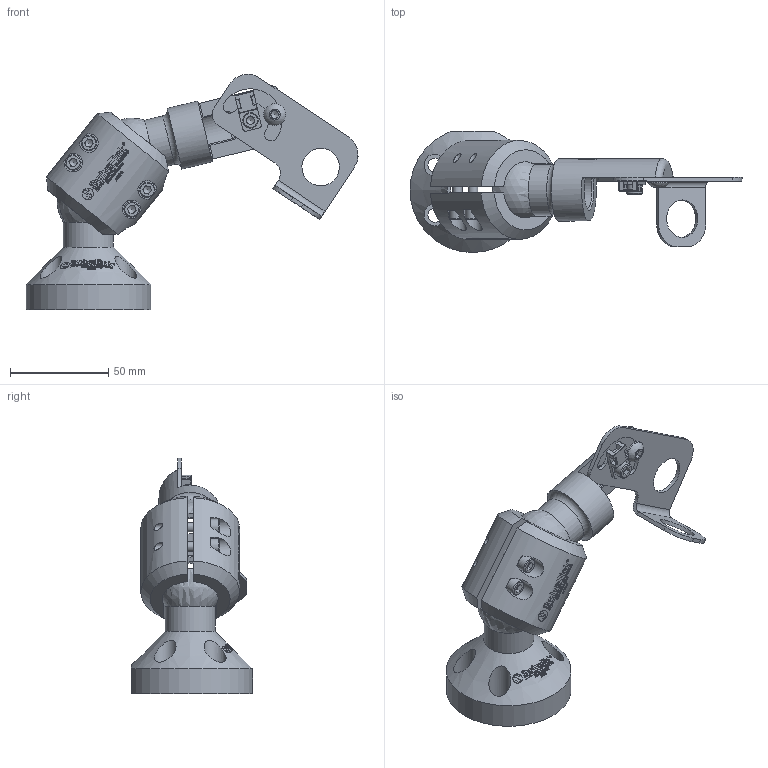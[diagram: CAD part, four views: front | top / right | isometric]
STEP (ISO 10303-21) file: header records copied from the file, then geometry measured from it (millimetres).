
FILE_DESCRIPTION (( 'STEP AP203' ), '1' );
FILE_NAME ('AFSB-1000-SBKIT-18.STEP', '2020-06-02T13:48:31', ( '' ), ( '' ), 'SwSTEP 2.0', 'SolidWorks 2020', '' );
FILE_SCHEMA (( 'CONFIG_CONTROL_DESIGN' ));
Length unit declared in the file: inch
Products named in the file (10): AFSB-1000-SBKIT-18; SHCS-23146-BO_SHCS-23146-BO; BHCS-24048-BO_BHCS-24048-BO; AFSB-2_Swivellink Etching; AFSB-SBH; SHCS-23144-BO_SHCS-23144-BO; AFSB-SB-18; AFSB-2; AFSB-1_Swivellink Etching; 07281137
Assembly tree (12 placements, depth 3):
  AFSB-1000-SBKIT-18
    AFSB-1_Swivellink Etching
    AFSB-2
      AFSB-2_Swivellink Etching
      SHCS-23146-BO_SHCS-23146-BO  x4
    AFSB-SBH
    AFSB-SB-18
    07281137
    SHCS-23144-BO_SHCS-23144-BO
    BHCS-24048-BO_BHCS-24048-BO
Bounding box: 168.9 x 61.59 x 119.65 mm (x, y, z)
Volume: 85401.7 mm3; surface area: 56348.4 mm2
Topology: 11 solids, 13 shells, 600 faces, 4874 edges, 4577 vertices
Faces by surface type: cylinder 242, plane 238, cone 96, sphere 11, torus 8, bspline 5
Full cylindrical faces by diameter (mm): 3.797 x5, 4.826 x5, 5.08 x1, 5.105 x1, 5.613 x4, 6.35 x1, 7.137 x4, 7.144 x1, 7.938 x5, 11.1 x1, 11.112 x4, 19.05 x3, 22.225 x1, 25.4 x2, 31.75 x1
Entity records: 55119 total; most frequent: CARTESIAN_POINT 21415, ORIENTED_EDGE 9250, EDGE_CURVE 4627, VERTEX_POINT 4464, DIRECTION 3892, B_SPLINE_CURVE_WITH_KNOTS 2404, VECTOR 1628, LINE 1628
